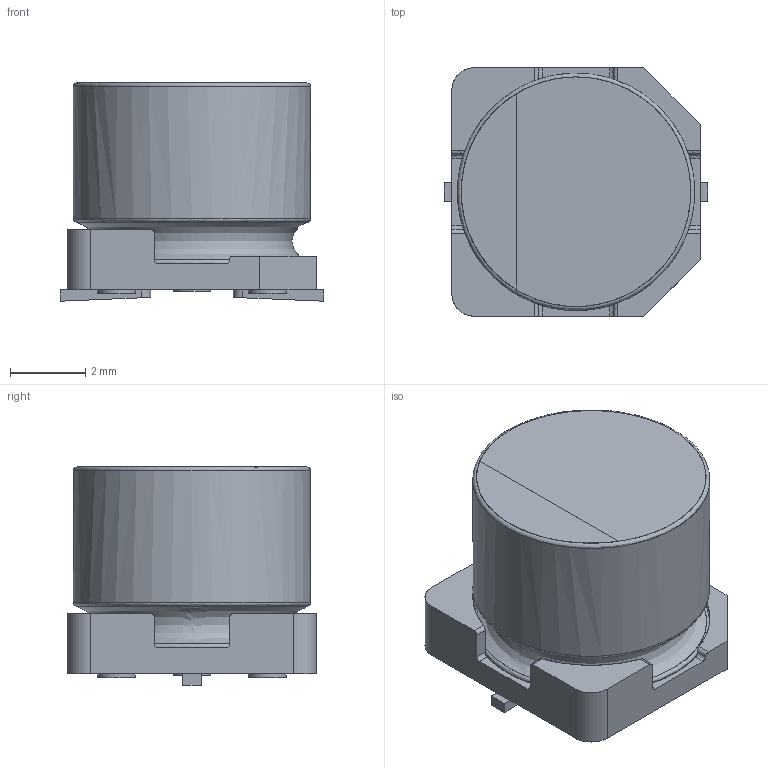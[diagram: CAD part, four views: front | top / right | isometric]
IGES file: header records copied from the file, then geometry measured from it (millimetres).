
Start section: JAMA-IS VERSION  1.0
Bounding box: 7 x 6.6 x 5.8 mm (x, y, z)
Surface area: 299.3 mm2 (no closed solid volume)
Topology: 0 solids, 0 shells, 74 faces, 994 edges, 976 vertices
Faces by surface type: bspline 74
